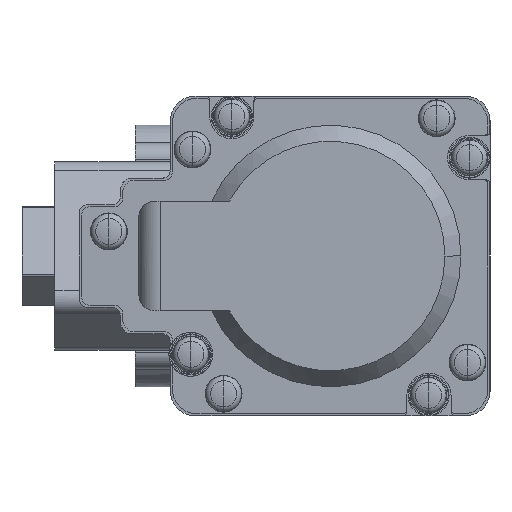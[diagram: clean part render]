
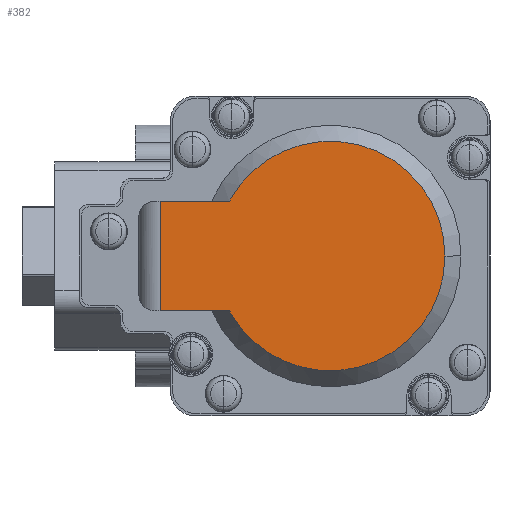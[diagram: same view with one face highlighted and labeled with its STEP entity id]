
A CAD part, left-side view. The second image highlights one B-rep face of the part: STEP entity #382.
In plain terms, the highlighted planar face has unit normal (-1, 0, 0).
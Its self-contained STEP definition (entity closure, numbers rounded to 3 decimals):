
#382 = ADVANCED_FACE( '', ( #1376 ), #1377, .T. );
#1376 = FACE_OUTER_BOUND( '', #2770, .T. );
#1377 = PLANE( '', #2771 );
#2770 = EDGE_LOOP( '', ( #6033, #6034, #6035, #6036, #6037 ) );
#2771 = AXIS2_PLACEMENT_3D( '', #6038, #6039, #6040 );
#6033 = ORIENTED_EDGE( '', *, *, #9903, .T. );
#6034 = ORIENTED_EDGE( '', *, *, #9909, .T. );
#6035 = ORIENTED_EDGE( '', *, *, #9904, .T. );
#6036 = ORIENTED_EDGE( '', *, *, #9108, .T. );
#6037 = ORIENTED_EDGE( '', *, *, #9900, .T. );
#6038 = CARTESIAN_POINT( '', ( -75., 20.75, 15. ) );
#6039 = DIRECTION( '', ( -1., 0., 0. ) );
#6040 = DIRECTION( '', ( 0., 1., 0. ) );
#9108 = EDGE_CURVE( '', #10986, #10983, #10987, .T. );
#9900 = EDGE_CURVE( '', #10983, #12338, #12340, .T. );
#9903 = EDGE_CURVE( '', #12338, #12343, #12345, .T. );
#9904 = EDGE_CURVE( '', #12346, #10986, #12347, .T. );
#9909 = EDGE_CURVE( '', #12343, #12346, #12353, .T. );
#10983 = VERTEX_POINT( '', #13974 );
#10986 = VERTEX_POINT( '', #13978 );
#10987 = CIRCLE( '', #13979, 14. );
#12338 = VERTEX_POINT( '', #15825 );
#12340 = CIRCLE( '', #15836, 14. );
#12343 = VERTEX_POINT( '', #15840 );
#12345 = LINE( '', #15842, #15843 );
#12346 = VERTEX_POINT( '', #15844 );
#12347 = LINE( '', #15845, #15846 );
#12353 = LINE( '', #15887, #15888 );
#13974 = CARTESIAN_POINT( '', ( -75., -14., 0. ) );
#13978 = CARTESIAN_POINT( '', ( -75., 12.293, -6.7 ) );
#13979 = AXIS2_PLACEMENT_3D( '', #17981, #17982, #17983 );
#15825 = CARTESIAN_POINT( '', ( -75., 12.293, 6.7 ) );
#15836 = AXIS2_PLACEMENT_3D( '', #19379, #19380, #19381 );
#15840 = CARTESIAN_POINT( '', ( -75., 20.75, 6.7 ) );
#15842 = CARTESIAN_POINT( '', ( -75., 21.05, 6.7 ) );
#15843 = VECTOR( '', #19386, 1. );
#15844 = CARTESIAN_POINT( '', ( -75., 20.75, -6.7 ) );
#15845 = CARTESIAN_POINT( '', ( -75., 15.907, -6.7 ) );
#15846 = VECTOR( '', #19387, 1. );
#15887 = CARTESIAN_POINT( '', ( -75., 20.75, 15. ) );
#15888 = VECTOR( '', #19392, 1. );
#17981 = CARTESIAN_POINT( '', ( -75., 0., 0. ) );
#17982 = DIRECTION( '', ( -1., 0., 0. ) );
#17983 = DIRECTION( '', ( 0., 1., 0. ) );
#19379 = CARTESIAN_POINT( '', ( -75., 0., 0. ) );
#19380 = DIRECTION( '', ( -1., 0., 0. ) );
#19381 = DIRECTION( '', ( 0., 1., 0. ) );
#19386 = DIRECTION( '', ( 0., 1., 0. ) );
#19387 = DIRECTION( '', ( 0., -1., 0. ) );
#19392 = DIRECTION( '', ( 0., 0., -1. ) );
